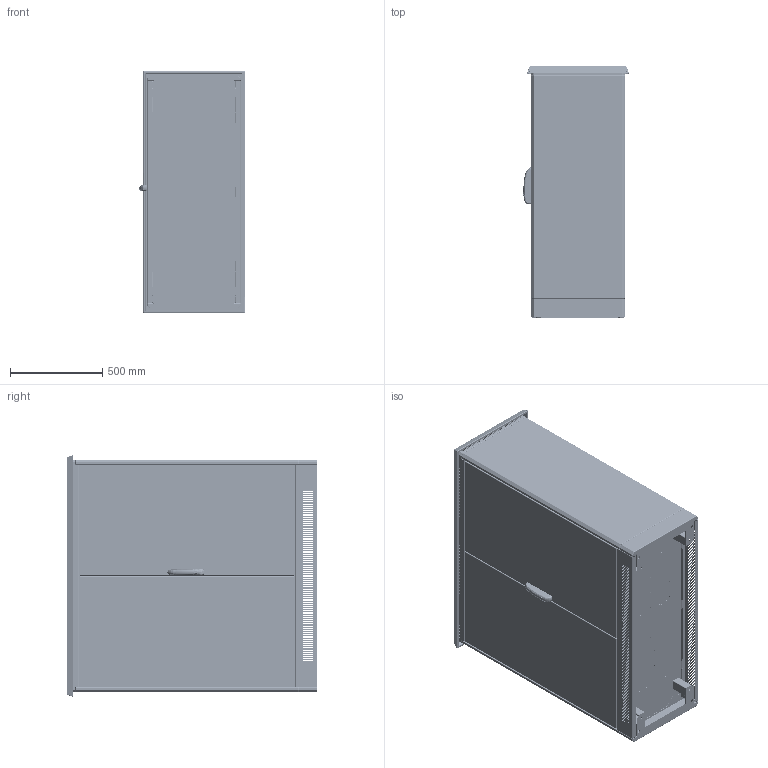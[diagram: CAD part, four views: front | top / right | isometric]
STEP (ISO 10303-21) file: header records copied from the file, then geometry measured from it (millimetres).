
FILE_DESCRIPTION (( 'STEP AP203' ), '1' );
FILE_NAME ('EVIS121205SA.STEP', '2021-03-15T14:36:29', ( '' ), ( '' ), 'SwSTEP 2.0', 'SolidWorks 2019', '' );
FILE_SCHEMA (( 'CONFIG_CONTROL_DESIGN' ));
Length unit declared in the file: millimetre
Products named in the file (9): AR_E-VIS_Zoccolo SA_1200x0500_areata; EVIS121205SA; AR_E-VIS_Retro_EVPA_1200x1200; AR_E-VIS_Porta CB 2.0_DA_1200x1200; AR_E-VIS_struttura_SASM_1200x1200x0500; AR_Tetto E-VIS_SA_1200x0500; AR_ENUX_nuova_maniglia_mesan; AR_E-VIS_Assieme porta IB_DA_1200X1200; AR_E-VIS_Porta IB 2.0_DA_1200x1200
Assembly tree (8 placements, depth 3):
  EVIS121205SA
    AR_E-VIS_struttura_SASM_1200x1200x0500
    AR_Tetto E-VIS_SA_1200x0500
    AR_E-VIS_Retro_EVPA_1200x1200
    AR_E-VIS_Porta CB 2.0_DA_1200x1200
    AR_E-VIS_Assieme porta IB_DA_1200X1200
      AR_E-VIS_Porta IB 2.0_DA_1200x1200
      AR_ENUX_nuova_maniglia_mesan
    AR_E-VIS_Zoccolo SA_1200x0500_areata
Bounding box: 569.71 x 1356.34 x 1307.89 mm (x, y, z)
Volume: 21093326.9 mm3; surface area: 19811753.4 mm2
Topology: 11 solids, 11 shells, 5789 faces, 16595 edges, 10747 vertices
Faces by surface type: cylinder 2865, plane 2659, sphere 142, cone 54, bspline 41, torus 28
Entity records: 198161 total; most frequent: CARTESIAN_POINT 37713, DIRECTION 33621, ORIENTED_EDGE 32878, EDGE_CURVE 16439, AXIS2_PLACEMENT_3D 11576, VERTEX_POINT 10747, VECTOR 10469, LINE 10469
